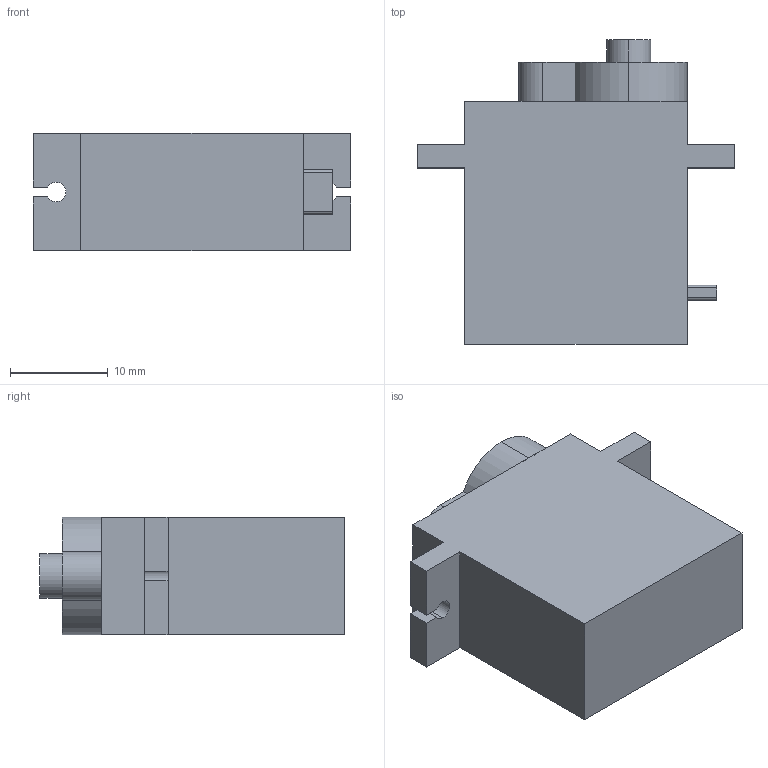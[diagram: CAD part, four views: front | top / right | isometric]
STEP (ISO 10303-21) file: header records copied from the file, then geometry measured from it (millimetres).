
FILE_DESCRIPTION (( 'STEP AP214' ), '1' );
FILE_NAME ('micro_servo.STEP', '2026-02-22T20:43:13', ( '' ), ( '' ), 'SwSTEP 2.0', 'SolidWorks 2024', '' );
FILE_SCHEMA (( 'AUTOMOTIVE_DESIGN' ));
Length unit declared in the file: millimetre
Products named in the file (1): micro_servo
Bounding box: 32.4 x 31.1 x 12 mm (x, y, z)
Volume: 7626.3 mm3; surface area: 2833.4 mm2
Topology: 1 solids, 1 shells, 50 faces, 130 edges, 85 vertices
Faces by surface type: plane 32, cylinder 18
Entity records: 1554 total; most frequent: DIRECTION 269, CARTESIAN_POINT 266, ORIENTED_EDGE 260, EDGE_CURVE 130, VECTOR 93, LINE 93, AXIS2_PLACEMENT_3D 88, VERTEX_POINT 85
